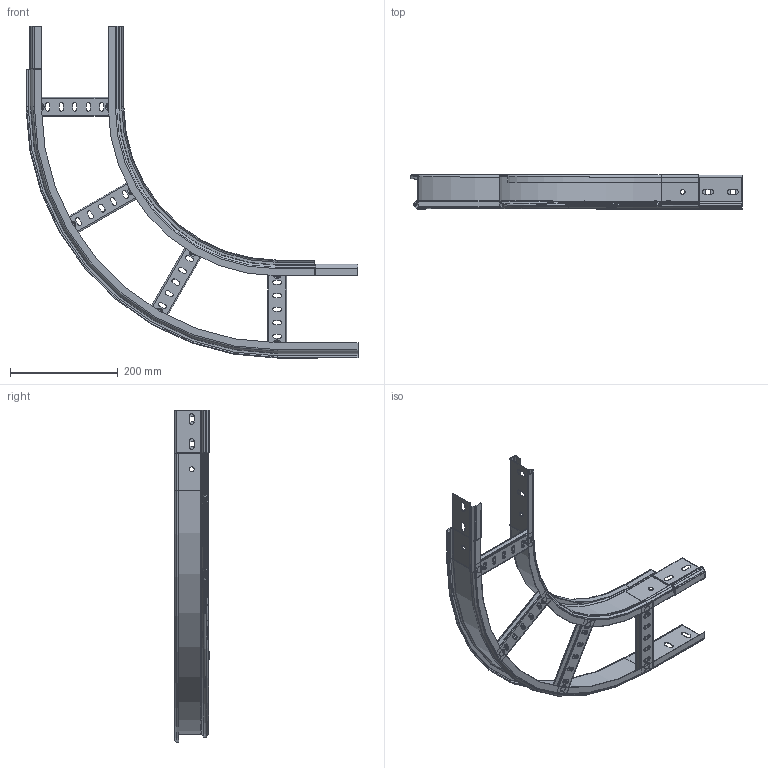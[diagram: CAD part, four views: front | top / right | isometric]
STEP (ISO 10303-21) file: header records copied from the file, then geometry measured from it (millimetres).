
FILE_DESCRIPTION (( 'STEP AP214' ), '1' );
FILE_NAME ('CPFER 150X60 GS.STEP', '2023-06-28T13:15:16', ( '' ), ( '' ), 'SwSTEP 2.0', 'SolidWorks 2022', '' );
FILE_SCHEMA (( 'AUTOMOTIVE_DESIGN' ));
Length unit declared in the file: millimetre
Products named in the file (4): CPFER 150X60 GS; FER_EXTERIOR CP_Circular_Enchufable_150x63; FER_INTERIOR CP_Circular_Enchufable_60; Travesaño RAT35 FER GS_150
Assembly tree (6 placements, depth 2):
  CPFER 150X60 GS
    FER_INTERIOR CP_Circular_Enchufable_60
    Travesaño RAT35 FER GS_150  x4
    FER_EXTERIOR CP_Circular_Enchufable_150x63
Bounding box: 615.4 x 64.2 x 615.4 mm (x, y, z)
Volume: 59947.7 mm3; surface area: 443026.8 mm2
Topology: 4 solids, 10 shells, 620 faces, 1494 edges, 906 vertices
Faces by surface type: plane 328, cylinder 186, torus 86, cone 18, bspline 2
Entity records: 10862 total; most frequent: CARTESIAN_POINT 1958, DIRECTION 1926, ORIENTED_EDGE 1724, EDGE_CURVE 894, AXIS2_PLACEMENT_3D 692, VERTEX_POINT 546, VECTOR 542, LINE 542
